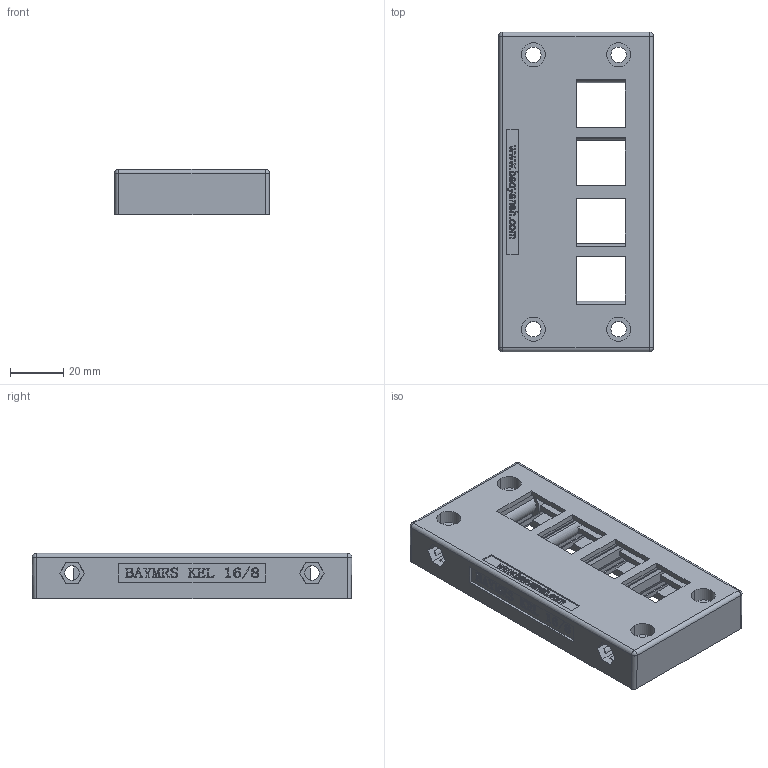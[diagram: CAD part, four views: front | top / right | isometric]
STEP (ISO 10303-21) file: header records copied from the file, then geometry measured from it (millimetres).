
FILE_DESCRIPTION((''),'2;1');
FILE_NAME('N10014','2025-06-06T09:56:53',('lyj'),(''),'CREO PARAMETRIC BY PTC INC, 2019010','CREO PARAMETRIC BY PTC INC, 2019010','');
FILE_SCHEMA(('CONFIG_CONTROL_DESIGN'));
Length unit declared in the file: millimetre
Products named in the file (1): N10014
Bounding box: 58 x 120 x 17 mm (x, y, z)
Volume: 75442.7 mm3; surface area: 36076.5 mm2
Topology: 1 solids, 9 shells, 1162 faces, 3442 edges, 2348 vertices
Faces by surface type: plane 642, extrusion 322, cylinder 126, cone 28, bspline 24, sphere 12, torus 8
Entity records: 42678 total; most frequent: CARTESIAN_POINT 13173, ORIENTED_EDGE 6860, DIRECTION 4661, EDGE_CURVE 3430, VECTOR 2499, VERTEX_POINT 2348, LINE 2177, B_SPLINE_CURVE_WITH_KNOTS 1310
